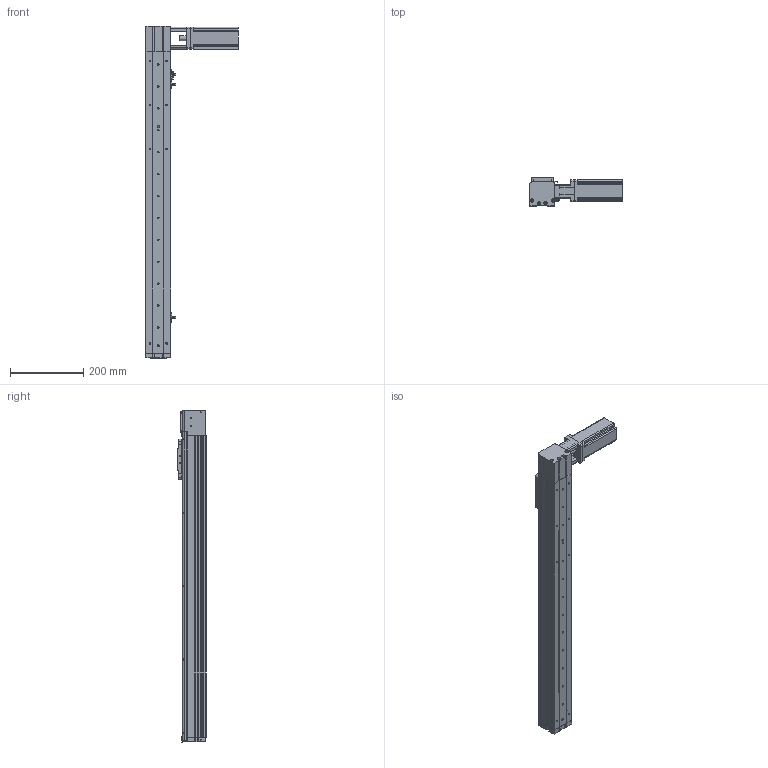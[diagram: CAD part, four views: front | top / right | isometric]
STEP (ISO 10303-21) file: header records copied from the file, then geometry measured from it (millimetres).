
FILE_DESCRIPTION (( 'STEP AP214' ), '1' );
FILE_NAME ('KSD68BS-S650-MRT-CR.STEP', '2019-11-07T06:40:10', ( '微软用户' ), ( '微软中国' ), 'SwSTEP 2.0', 'SolidWorks 2014', '' );
FILE_SCHEMA (( 'AUTOMOTIVE_DESIGN' ));
Length unit declared in the file: millimetre
Products named in the file (13): 68宽单导轨全封闭丝杆传动安装板1防护罩; KSD68BS 650行程侧板全封闭; 68宽单导轨全封闭同步带端板; 68单导轨全封闭同步带电机座左; 68单导轨全封闭同步带安装板; 感应片68宽全封闭; U倰嫖萇EEㄜSX672; 台达ECMA－C20604AS伺服电机（400W); KSD68BS 650行程底板全封闭; KSD68BS-S650-MRT-CR; 100遵鎮湛假蚾啣1; KSD68BS 650行程盖板全封闭; 68遵裔啣揤啣1
Assembly tree (16 placements, depth 2):
  KSD68BS-S650-MRT-CR
    KSD68BS 650行程底板全封闭
    台达ECMA－C20604AS伺服电机（400W)
    U倰嫖萇EEㄜSX672  x3
    感应片68宽全封闭
    68单导轨全封闭同步带安装板
    68单导轨全封闭同步带电机座左
    68宽单导轨全封闭同步带端板
    KSD68BS 650行程侧板全封闭  x2
    68宽单导轨全封闭丝杆传动安装板1防护罩
    68遵裔啣揤啣1  x2
    KSD68BS 650行程盖板全封闭
    100遵鎮湛假蚾啣1
Bounding box: 252.7 x 77 x 908.1 mm (x, y, z)
Volume: 2014411.1 mm3; surface area: 710632.2 mm2
Topology: 17 solids, 17 shells, 1347 faces, 3780 edges, 2428 vertices
Faces by surface type: cylinder 613, plane 598, cone 136
Entity records: 41550 total; most frequent: CARTESIAN_POINT 6963, DIRECTION 6209, ORIENTED_EDGE 5936, EDGE_CURVE 2968, AXIS2_PLACEMENT_3D 2218, VERTEX_POINT 1946, VECTOR 1773, LINE 1773
